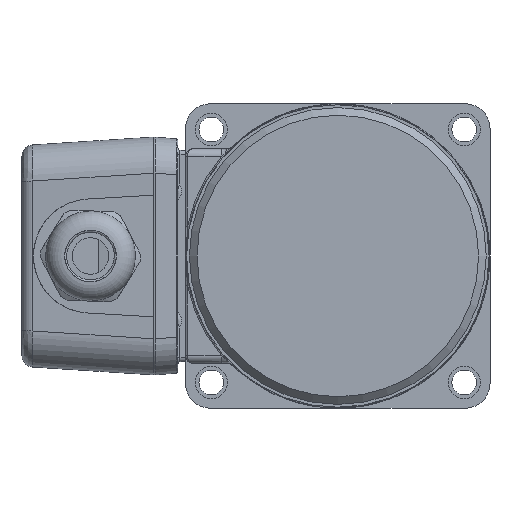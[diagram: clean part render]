
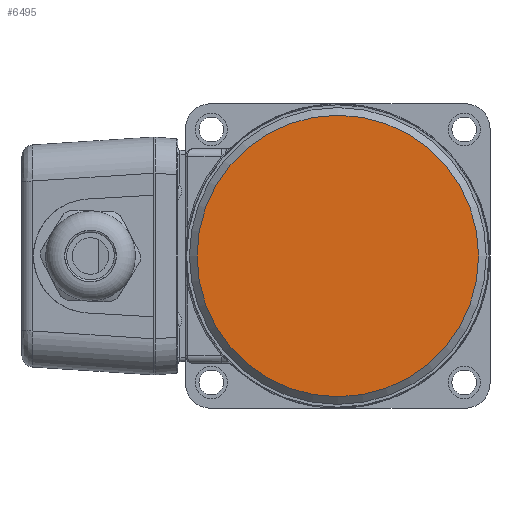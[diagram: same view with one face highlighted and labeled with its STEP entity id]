
A CAD part, left-side view. The second image highlights one B-rep face of the part: STEP entity #6495.
In plain terms, the highlighted planar face has unit normal (-1, 0, 0).
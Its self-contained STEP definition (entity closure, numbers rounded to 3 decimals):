
#827=CIRCLE('',#7073,37.);
#1197=FACE_OUTER_BOUND('',#1583,.T.);
#1583=EDGE_LOOP('',(#5627));
#3147=VERTEX_POINT('',#12815);
#3993=EDGE_CURVE('',#3147,#3147,#827,.T.);
#5627=ORIENTED_EDGE('',*,*,#3993,.F.);
#6172=PLANE('',#7072);
#6495=ADVANCED_FACE('',(#1197),#6172,.T.);
#7072=AXIS2_PLACEMENT_3D('',#12814,#8568,#8569);
#7073=AXIS2_PLACEMENT_3D('',#12816,#8570,#8571);
#8568=DIRECTION('center_axis',(-1.,0.,0.));
#8569=DIRECTION('ref_axis',(0.,0.,1.));
#8570=DIRECTION('center_axis',(1.,0.,0.));
#8571=DIRECTION('ref_axis',(0.,1.,0.));
#12814=CARTESIAN_POINT('Origin',(0.,18.5,0.));
#12815=CARTESIAN_POINT('',(0.,-37.,0.));
#12816=CARTESIAN_POINT('Origin',(0.,0.,
0.));
